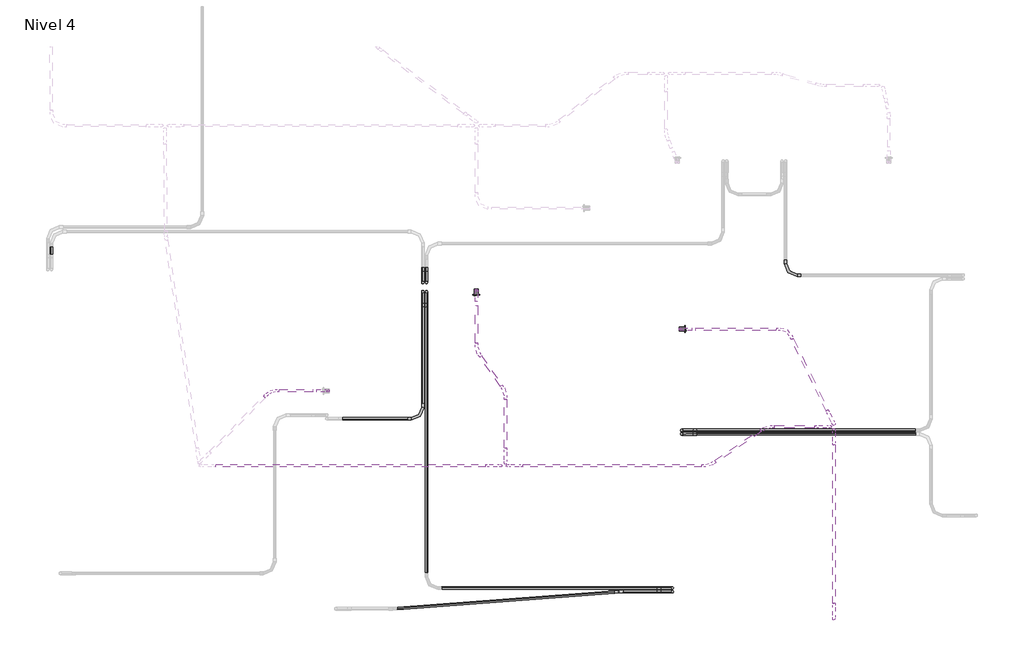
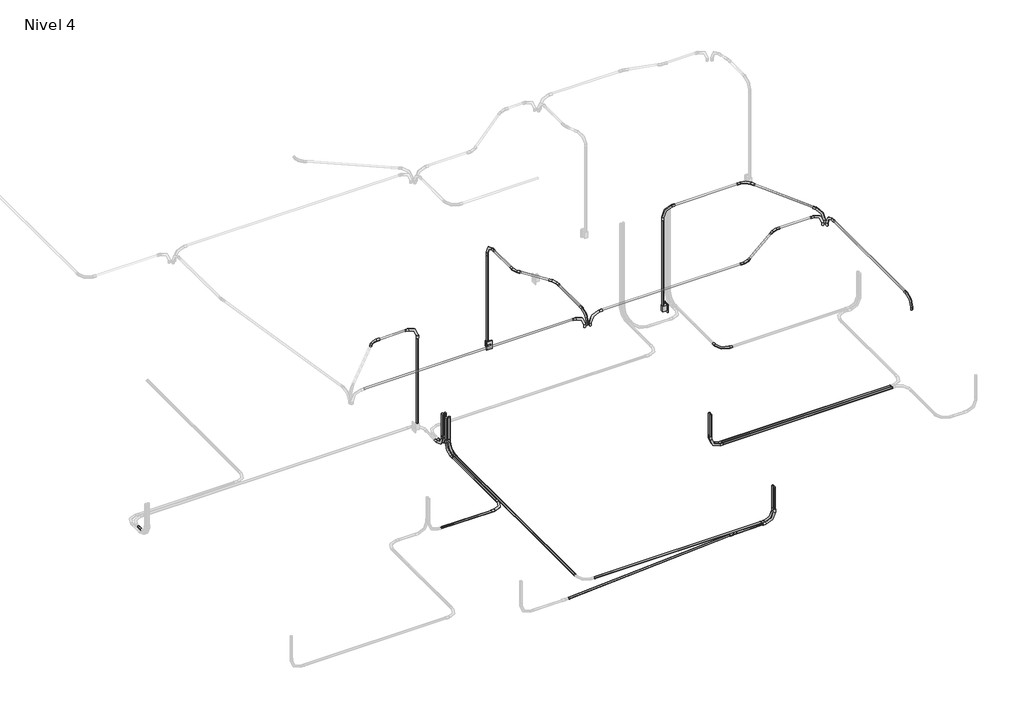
# One storey, part 2 of 9: 31 cable carrier segments, 27 cable carrier fittings, 2 switching devices.
"""IFC4 building model written with IfcOpenShell, lengths in millimetres."""

from ifc_helpers import new_model, si_unit, point, frame, frame_2d, origin, place, context, project, spatial, circle_curve, trimmed, segment, composite_curve, outline, extrude, transform, mapped, element, save
from components import m_codo_de_tubo_extremo_liso_pvc_9da73e12, m_codo_de_tubo_extremo_liso_pvc_e945fc89, m_codo_de_tubo_extremo_liso_pvc_102f0f41, m_codo_de_tubo_extremo_liso_pvc_6d9fa8a7, m_codo_de_tubo_extremo_liso_pvc_f58f4af8, m_codo_de_tubo_extremo_liso_pvc_1309d5ab, m_codo_de_tubo_extremo_liso_pvc_280a536f, m_codo_de_tubo_extremo_liso_pvc_f7d6bdcc, switching_device_22fed34b

model = new_model("IFC4")

# Units and contexts
model_context = context("Model", 3, world=origin())
ifc_project = project(units=[si_unit("LENGTHUNIT", "METRE", prefix="MILLI")], contexts=[model_context])

# Site, building, storey
site = spatial("IfcSite", under=ifc_project)
building = spatial("IfcBuilding", under=site)
storey = spatial("IfcBuildingStorey", under=building, Name="Nivel 4", Elevation=8100.0)

# Cable carrier fittings
placement = place(None, origin())
m_codo_de_tubo_extremo_liso_pvc_shape = m_codo_de_tubo_extremo_liso_pvc_9da73e12(model_context)
element("IfcCableCarrierFitting", 1, ObjectType="M_Codo de tubo - Extremo liso - PVC : CODO POTENCIA", at=placement, inside=storey, context=model_context, shape_type="MappedRepresentation", body=[
    mapped(m_codo_de_tubo_extremo_liso_pvc_shape, transform((6305.3628882, 2344.5282763, 8030.0), x_axis=(0.0, 0.0, -1.0), y_axis=(1.0, 0.0, 0.0), z_axis=(0.0, -1.0, 0.0))),
])
element("IfcCableCarrierFitting", 2, ObjectType="M_Codo de tubo - Extremo liso - PVC : CODO POTENCIA", at=placement, inside=storey, context=model_context, shape_type="MappedRepresentation", body=[
    mapped(m_codo_de_tubo_extremo_liso_pvc_shape, transform((6305.3628882, 2380.5919159, 8030.0), x_axis=(0.0, 0.0, -1.0), y_axis=(1.0, 0.0, 0.0), z_axis=(0.0, -1.0, 0.0))),
])
element("IfcCableCarrierFitting", 3, ObjectType="M_Codo de tubo - Extremo liso - PVC : CODO POTENCIA", at=placement, inside=storey, context=model_context, shape_type="MappedRepresentation", body=[
    mapped(m_codo_de_tubo_extremo_liso_pvc_shape, transform((7343.1290455, 3929.8436623, 8030.0), x_axis=(0.0, -1.0, 0.0), y_axis=(1.0, 0.0, 0.0), z_axis=(0.0, 0.0, 1.0))),
])
element("IfcCableCarrierFitting", 4, ObjectType="M_Codo de tubo - Extremo liso - PVC : CODO POTENCIA", at=placement, inside=storey, context=model_context, shape_type="MappedRepresentation", body=[
    mapped(m_codo_de_tubo_extremo_liso_pvc_shape, transform((3759.3670122, 3855.3628882, 8030.0), x_axis=(0.0, 0.0, -1.0), y_axis=(0.0, 1.0, 0.0), z_axis=(1.0, 0.0, 0.0))),
])
element("IfcCableCarrierFitting", 5, ObjectType="M_Codo de tubo - Extremo liso - PVC : CODO POTENCIA", at=placement, inside=storey, context=model_context, shape_type="MappedRepresentation", body=[
    mapped(m_codo_de_tubo_extremo_liso_pvc_shape, transform((3723.3033726, 3855.3628882, 8030.0), x_axis=(0.0, 0.0, -1.0), y_axis=(0.0, 1.0, 0.0), z_axis=(1.0, 0.0, 0.0))),
])
element("IfcCableCarrierFitting", 6, ObjectType="M_Codo de tubo - Extremo liso - PVC : CODO POTENCIA", at=placement, inside=storey, context=model_context, shape_type="MappedRepresentation", body=[
    mapped(m_codo_de_tubo_extremo_liso_pvc_shape, transform((3759.7333421, 3764.6371118, 8030.0), x_axis=(0.0, 0.0, -1.0), y_axis=(0.0, -1.0, 0.0), z_axis=(-1.0, 0.0, 0.0))),
])
element("IfcCableCarrierFitting", 7, ObjectType="M_Codo de tubo - Extremo liso - PVC : CODO POTENCIA", at=placement, inside=storey, context=model_context, shape_type="MappedRepresentation", body=[
    mapped(m_codo_de_tubo_extremo_liso_pvc_shape, transform((3723.6697024, 3764.6371118, 8030.0), x_axis=(0.0, 0.0, -1.0), y_axis=(0.0, -1.0, 0.0), z_axis=(-1.0, 0.0, 0.0))),
])
element("IfcCableCarrierFitting", 8, ObjectType="M_Codo de tubo - Extremo liso - PVC : CODO POTENCIA", at=placement, inside=storey, context=model_context, shape_type="MappedRepresentation", body=[
    mapped(m_codo_de_tubo_extremo_liso_pvc_shape, transform((6214.6371118, 769.0018593, 8030.0), x_axis=(0.0, 0.0, -1.0), y_axis=(-1.0, 0.0, 0.0), z_axis=(0.0, 1.0, 0.0))),
])
element("IfcCableCarrierFitting", 9, ObjectType="M_Codo de tubo - Extremo liso - PVC : CODO POTENCIA", at=placement, inside=storey, context=model_context, shape_type="MappedRepresentation", body=[
    mapped(m_codo_de_tubo_extremo_liso_pvc_shape, transform((6214.6371118, 805.065499, 8030.0), x_axis=(0.0, 0.0, -1.0), y_axis=(-1.0, 0.0, 0.0), z_axis=(0.0, 1.0, 0.0))),
])
element("IfcCableCarrierFitting", 10, ObjectType="M_Codo de tubo - Extremo liso - PVC : CODO POTENCIA", at=placement, inside=storey, context=model_context, shape_type="MappedRepresentation", body=[
    mapped(m_codo_de_tubo_extremo_liso_pvc_shape, transform((3723.6697024, 2496.1320383, 8030.0), x_axis=(1.0, 0.0, 0.0), y_axis=(0.0, 1.0, 0.0), z_axis=(0.0, 0.0, 1.0))),
])
m_codo_de_tubo_extremo_liso_pvc_2_shape = m_codo_de_tubo_extremo_liso_pvc_e945fc89(model_context)
element("IfcCableCarrierFitting", 11, ObjectType="M_Codo de tubo - Extremo liso - PVC : CODO POTENCIA", at=placement, inside=storey, context=model_context, shape_type="MappedRepresentation", body=[
    mapped(m_codo_de_tubo_extremo_liso_pvc_2_shape, transform((5679.6371118, 769.0018593, 8030.0), x_axis=(-1.0, 0.0, 0.0), y_axis=(0.0, -1.0, 0.0), z_axis=(0.0, 0.0, 1.0))),
])
element("IfcCableCarrierFitting", 12, ObjectType="M_Codo de tubo - Extremo liso - PVC : CODO ILUMINACION", at=placement, inside=storey, context=model_context, shape_type="MappedRepresentation", body=[
    mapped(m_codo_de_tubo_extremo_liso_pvc_shape, transform((4568.8526659, 2026.1291573, 10650.0), x_axis=(-1.0, 0.0, 0.0), y_axis=(0.0, 0.0, -1.0), z_axis=(0.0, -1.0, 0.0))),
])
element("IfcCableCarrierFitting", 13, ObjectType="M_Codo de tubo - Extremo liso - PVC : CODO ILUMINACION", at=placement, inside=storey, context=model_context, shape_type="MappedRepresentation", body=[
    mapped(m_codo_de_tubo_extremo_liso_pvc_shape, transform((7824.8834206, 2385.5078358, 10650.0), x_axis=(0.0, 1.0, 0.0), y_axis=(0.0, 0.0, -1.0), z_axis=(-1.0, 0.0, 0.0))),
])
element("IfcCableCarrierFitting", 14, ObjectType="M_Codo de tubo - Extremo liso - PVC : CODO ILUMINACION", at=placement, inside=storey, context=model_context, shape_type="MappedRepresentation", body=[
    mapped(m_codo_de_tubo_extremo_liso_pvc_shape, transform((7824.7093209, 2441.4349493, 10650.0), x_axis=(0.4383711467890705, -0.8987940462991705, 0.0), y_axis=(0.0, 0.0, -1.0000000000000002), z_axis=(0.8987940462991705, 0.4383711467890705, 0.0))),
])
element("IfcCableCarrierFitting", 15, ObjectType="M_Codo de tubo - Extremo liso - PVC : CODO ILUMINACION", at=placement, inside=storey, context=model_context, shape_type="MappedRepresentation", body=[
    mapped(m_codo_de_tubo_extremo_liso_pvc_shape, transform((7824.8834206, 498.0975256, 10650.0), x_axis=(0.0, -1.0, 0.0), y_axis=(0.0, 0.0, -1.0), z_axis=(1.0, 0.0, 0.0))),
])
element("IfcCableCarrierFitting", 16, ObjectType="M_Codo de tubo - Extremo liso - PVC : CODO ILUMINACION", at=placement, inside=storey, context=model_context, shape_type="MappedRepresentation", body=[
    mapped(m_codo_de_tubo_extremo_liso_pvc_shape, transform((6291.8611243, 3390.4963891, 10650.0), x_axis=(0.0, 0.0, 1.0), y_axis=(1.0, 0.0, 0.0), z_axis=(0.0, 1.0, 0.0))),
])
element("IfcCableCarrierFitting", 17, ObjectType="M_Codo de tubo - Extremo liso - PVC : CODO ILUMINACION", at=placement, inside=storey, context=model_context, shape_type="MappedRepresentation", body=[
    mapped(m_codo_de_tubo_extremo_liso_pvc_shape, transform((2778.1388757, 2774.1263967, 10650.0), x_axis=(0.0, 0.0, 1.0), y_axis=(-1.0, 0.0, 0.0), z_axis=(0.0, -1.0, 0.0))),
])
element("IfcCableCarrierFitting", 18, ObjectType="M_Codo de tubo - Extremo liso - PVC : CODO ILUMINACION", at=placement, inside=storey, context=model_context, shape_type="MappedRepresentation", body=[
    mapped(m_codo_de_tubo_extremo_liso_pvc_shape, transform((4547.4329765, 2051.7188091, 10650.0), x_axis=(-0.0017355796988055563, -0.9999984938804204, 0.0), y_axis=(0.0, 0.0, -1.0), z_axis=(0.9999984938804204, -0.0017355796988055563, 0.0))),
])
element("IfcCableCarrierFitting", 19, ObjectType="M_Codo de tubo - Extremo liso - PVC : CODO ILUMINACION", at=placement, inside=storey, context=model_context, shape_type="MappedRepresentation", body=[
    mapped(m_codo_de_tubo_extremo_liso_pvc_shape, transform((4257.4665435, 3778.1388757, 10650.0), x_axis=(0.0, 0.0, 1.0), y_axis=(0.0, -1.0, 0.0), z_axis=(1.0, 0.0, 0.0))),
])
m_codo_de_tubo_extremo_liso_pvc_3_shape = m_codo_de_tubo_extremo_liso_pvc_102f0f41(model_context)
element("IfcCableCarrierFitting", 20, ObjectType="M_Codo de tubo - Extremo liso - PVC : CODO ILUMINACION", at=placement, inside=storey, context=model_context, shape_type="MappedRepresentation", body=[
    mapped(m_codo_de_tubo_extremo_liso_pvc_3_shape, transform((7788.6622212, 2417.3168974, 10650.0), x_axis=(1.0, 0.0, 0.0), y_axis=(0.0, 0.0, 1.0), z_axis=(0.0, -1.0, 0.0))),
])
element("IfcCableCarrierFitting", 21, ObjectType="M_Codo de tubo - Extremo liso - PVC : CODO ILUMINACION", at=placement, inside=storey, context=model_context, shape_type="MappedRepresentation", body=[
    mapped(m_codo_de_tubo_extremo_liso_pvc_3_shape, transform((4500.822405, 2026.1291573, 10650.0), x_axis=(1.0, 0.0, 0.0), y_axis=(0.0, 0.0, 1.0), z_axis=(0.0, -1.0, 0.0))),
])
m_codo_de_tubo_extremo_liso_pvc_4_shape = m_codo_de_tubo_extremo_liso_pvc_6d9fa8a7(model_context)
element("IfcCableCarrierFitting", 22, ObjectType="M_Codo de tubo - Extremo liso - PVC : CODO ILUMINACION", at=placement, inside=storey, context=model_context, shape_type="MappedRepresentation", body=[
    mapped(m_codo_de_tubo_extremo_liso_pvc_4_shape, transform((6581.2526659, 2026.1291573, 10650.0), x_axis=(1.0, 0.0, 0.0), y_axis=(0.0, 1.0, 0.0), z_axis=(0.0, 0.0, 1.0))),
])
element("IfcCableCarrierFitting", 23, ObjectType="M_Codo de tubo - Extremo liso - PVC : CODO ILUMINACION", at=placement, inside=storey, context=model_context, shape_type="MappedRepresentation", body=[
    mapped(m_codo_de_tubo_extremo_liso_pvc_4_shape, transform((7156.2622212, 2417.3168974, 10650.0), x_axis=(-1.0, 0.0, 0.0), y_axis=(0.0, -1.0, 0.0), z_axis=(0.0, 0.0, 1.0))),
])
m_codo_de_tubo_extremo_liso_pvc_5_shape = m_codo_de_tubo_extremo_liso_pvc_f58f4af8(model_context)
element("IfcCableCarrierFitting", 24, ObjectType="M_Codo de tubo - Extremo liso - PVC : CODO ILUMINACION", at=placement, inside=storey, context=model_context, shape_type="MappedRepresentation", body=[
    mapped(m_codo_de_tubo_extremo_liso_pvc_5_shape, transform((7361.8211281, 3390.4963891, 10650.0), x_axis=(-0.4383711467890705, 0.8987940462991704, 0.0), y_axis=(-0.8987940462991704, -0.4383711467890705, 0.0), z_axis=(0.0, 0.0, 1.0))),
])
m_codo_de_tubo_extremo_liso_pvc_6_shape = m_codo_de_tubo_extremo_liso_pvc_1309d5ab(model_context)
element("IfcCableCarrierFitting", 25, ObjectType="M_Codo de tubo - Extremo liso - PVC : CODO ILUMINACION", at=placement, inside=storey, context=model_context, shape_type="MappedRepresentation", body=[
    mapped(m_codo_de_tubo_extremo_liso_pvc_6_shape, transform((2203.0130764, 2774.1263967, 10650.0), x_axis=(-1.0, 0.0, 0.0), y_axis=(0.0, -1.0, 0.0), z_axis=(0.0, 0.0, 1.0))),
])
m_codo_de_tubo_extremo_liso_pvc_7_shape = m_codo_de_tubo_extremo_liso_pvc_280a536f(model_context)
element("IfcCableCarrierFitting", 26, ObjectType="M_Codo de tubo - Extremo liso - PVC : CODO ILUMINACION", at=placement, inside=storey, context=model_context, shape_type="MappedRepresentation", body=[
    mapped(m_codo_de_tubo_extremo_liso_pvc_7_shape, transform((4257.4665435, 3178.1388757, 10650.0), x_axis=(0.0, -1.0, 0.0), y_axis=(1.0, 0.0, 0.0), z_axis=(0.0, 0.0, 1.0))),
])
m_codo_de_tubo_extremo_liso_pvc_8_shape = m_codo_de_tubo_extremo_liso_pvc_f7d6bdcc(model_context)
element("IfcCableCarrierFitting", 27, ObjectType="M_Codo de tubo - Extremo liso - PVC : CODO ILUMINACION", at=placement, inside=storey, context=model_context, shape_type="MappedRepresentation", body=[
    mapped(m_codo_de_tubo_extremo_liso_pvc_8_shape, transform((4548.6694035, 2764.1177362, 10650.0), x_axis=(0.0017355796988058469, 0.9999984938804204, 0.0), y_axis=(-0.9999984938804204, 0.0017355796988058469, 0.0), z_axis=(0.0, 0.0, 1.0))),
])

# Cable carrier segments
element("IfcCableCarrierSegment", 28, ObjectType="PVC-SEL, POTENCIA", at=placement, inside=storey, context=model_context, shape_type="SweptSolid", body=[
    extrude(outline(composite_curve([segment(trimmed(circle_curve(frame_2d((2344.5282763, 8030.0)), 11.71), [point((2332.8182763, 8030.0))], [point((2344.5282763, 8041.71))], False, "CARTESIAN"), True, "CONTINUOUS"), segment(trimmed(circle_curve(frame_2d((2344.5282763, 8030.0)), 11.71), [point((2344.5282763, 8041.71))], [point((2356.2382763, 8030.0))], False, "CARTESIAN"), True, "CONTINUOUS"), segment(trimmed(circle_curve(frame_2d((2344.5282763, 8030.0)), 11.71), [point((2356.2382763, 8030.0))], [point((2344.5282763, 8018.29))], False, "CARTESIAN"), True, "CONTINUOUS"), segment(trimmed(circle_curve(frame_2d((2344.5282763, 8030.0)), 11.71), [point((2344.5282763, 8018.29))], [point((2332.8182763, 8030.0))], False, "CARTESIAN"), True, "CONTINUOUS")], self_intersect=False)), frame((6457.7628882, 0.0, 0.0), z_axis=(1.0, 0.0, 0.0), x_axis=(0.0, 1.0, 0.0)), (0.0, 0.0, 1.0), 2184.4742236),
])
element("IfcCableCarrierSegment", 29, ObjectType="PVC-SEL, POTENCIA", at=placement, inside=storey, context=model_context, shape_type="SweptSolid", body=[
    extrude(outline(composite_curve([segment(trimmed(circle_curve(frame_2d((6305.3628882, 2344.5282763)), 11.71), [point((6317.0728882, 2344.5282763))], [point((6305.3628882, 2332.8182763))], False, "CARTESIAN"), True, "CONTINUOUS"), segment(trimmed(circle_curve(frame_2d((6305.3628882, 2344.5282763)), 11.71), [point((6305.3628882, 2332.8182763))], [point((6293.6528882, 2344.5282763))], False, "CARTESIAN"), True, "CONTINUOUS"), segment(trimmed(circle_curve(frame_2d((6305.3628882, 2344.5282763)), 11.71), [point((6293.6528882, 2344.5282763))], [point((6305.3628882, 2356.2382763))], False, "CARTESIAN"), True, "CONTINUOUS"), segment(trimmed(circle_curve(frame_2d((6305.3628882, 2344.5282763)), 11.71), [point((6305.3628882, 2356.2382763))], [point((6317.0728882, 2344.5282763))], False, "CARTESIAN"), True, "CONTINUOUS")], self_intersect=False)), frame((0.0, 0.0, 8182.4), z_axis=(0.0, 0.0, 1.0), x_axis=(1.0, 0.0, 0.0)), (0.0, 0.0, 1.0), 297.3020537),
])
element("IfcCableCarrierSegment", 30, ObjectType="PVC-SEL, POTENCIA", at=placement, inside=storey, context=model_context, shape_type="SweptSolid", body=[
    extrude(outline(composite_curve([segment(trimmed(circle_curve(frame_2d((2380.5919159, 8030.0)), 11.71), [point((2392.3019159, 8030.0))], [point((2380.5919159, 8018.29))], False, "CARTESIAN"), True, "CONTINUOUS"), segment(trimmed(circle_curve(frame_2d((2380.5919159, 8030.0)), 11.71), [point((2380.5919159, 8018.29))], [point((2368.8819159, 8030.0))], False, "CARTESIAN"), True, "CONTINUOUS"), segment(trimmed(circle_curve(frame_2d((2380.5919159, 8030.0)), 11.71), [point((2368.8819159, 8030.0))], [point((2380.5919159, 8041.71))], False, "CARTESIAN"), True, "CONTINUOUS"), segment(trimmed(circle_curve(frame_2d((2380.5919159, 8030.0)), 11.71), [point((2380.5919159, 8041.71))], [point((2392.3019159, 8030.0))], False, "CARTESIAN"), True, "CONTINUOUS")], self_intersect=False)), frame((6457.7628882, 0.0, 0.0), z_axis=(1.0, 0.0, 0.0), x_axis=(0.0, 1.0, 0.0)), (0.0, 0.0, 1.0), 2184.4742236),
])
element("IfcCableCarrierSegment", 31, ObjectType="PVC-SEL, POTENCIA", at=placement, inside=storey, context=model_context, shape_type="SweptSolid", body=[
    extrude(outline(composite_curve([segment(trimmed(circle_curve(frame_2d((6305.3628882, 2380.5919159)), 11.71), [point((6317.0728882, 2380.5919159))], [point((6305.3628882, 2368.8819159))], False, "CARTESIAN"), True, "CONTINUOUS"), segment(trimmed(circle_curve(frame_2d((6305.3628882, 2380.5919159)), 11.71), [point((6305.3628882, 2368.8819159))], [point((6293.6528882, 2380.5919159))], False, "CARTESIAN"), True, "CONTINUOUS"), segment(trimmed(circle_curve(frame_2d((6305.3628882, 2380.5919159)), 11.71), [point((6293.6528882, 2380.5919159))], [point((6305.3628882, 2392.3019159))], False, "CARTESIAN"), True, "CONTINUOUS"), segment(trimmed(circle_curve(frame_2d((6305.3628882, 2380.5919159)), 11.71), [point((6305.3628882, 2392.3019159))], [point((6317.0728882, 2380.5919159))], False, "CARTESIAN"), True, "CONTINUOUS")], self_intersect=False)), frame((0.0, 0.0, 8182.4), z_axis=(0.0, 0.0, 1.0), x_axis=(1.0, 0.0, 0.0)), (0.0, 0.0, 1.0), 297.3020537),
])
element("IfcCableCarrierSegment", 32, ObjectType="PVC-SEL, POTENCIA", at=placement, inside=storey, context=model_context, shape_type="SweptSolid", body=[
    extrude(outline(composite_curve([segment(trimmed(circle_curve(frame_2d((8030.0, 17.0761068)), 11.71), [point((8030.0, 28.7861068))], [point((8041.71, 17.0761068))], False, "CARTESIAN"), True, "CONTINUOUS"), segment(trimmed(circle_curve(frame_2d((8030.0, 17.0761068)), 11.71), [point((8041.71, 17.0761068))], [point((8030.0, 5.3661068))], False, "CARTESIAN"), True, "CONTINUOUS"), segment(trimmed(circle_curve(frame_2d((8030.0, 17.0761068)), 11.71), [point((8030.0, 5.3661068))], [point((8018.29, 17.0761068))], False, "CARTESIAN"), True, "CONTINUOUS"), segment(trimmed(circle_curve(frame_2d((8030.0, 17.0761068)), 11.71), [point((8018.29, 17.0761068))], [point((8030.0, 28.7861068))], False, "CARTESIAN"), True, "CONTINUOUS")], self_intersect=False)), frame((0.0, 4137.7628882, 0.0), z_axis=(0.0, 1.0, 0.0), x_axis=(0.0, 0.0, 1.0)), (0.0, 0.0, 1.0), 75.2),
])
element("IfcCableCarrierSegment", 33, ObjectType="PVC-SEL, POTENCIA", at=placement, inside=storey, context=model_context, shape_type="SweptSolid", body=[
    extrude(outline(composite_curve([segment(trimmed(circle_curve(frame_2d((3759.3670122, 3855.3628882)), 11.71), [point((3771.0770122, 3855.3628882))], [point((3759.3670122, 3843.6528882))], False, "CARTESIAN"), True, "CONTINUOUS"), segment(trimmed(circle_curve(frame_2d((3759.3670122, 3855.3628882)), 11.71), [point((3759.3670122, 3843.6528882))], [point((3747.6570122, 3855.3628882))], False, "CARTESIAN"), True, "CONTINUOUS"), segment(trimmed(circle_curve(frame_2d((3759.3670122, 3855.3628882)), 11.71), [point((3747.6570122, 3855.3628882))], [point((3759.3670122, 3867.0728882))], False, "CARTESIAN"), True, "CONTINUOUS"), segment(trimmed(circle_curve(frame_2d((3759.3670122, 3855.3628882)), 11.71), [point((3759.3670122, 3867.0728882))], [point((3771.0770122, 3855.3628882))], False, "CARTESIAN"), True, "CONTINUOUS")], self_intersect=False)), frame((0.0, 0.0, 8182.4), z_axis=(0.0, 0.0, 1.0), x_axis=(1.0, 0.0, 0.0)), (0.0, 0.0, 1.0), 297.3020537),
])
element("IfcCableCarrierSegment", 34, ObjectType="PVC-SEL, POTENCIA", at=placement, inside=storey, context=model_context, shape_type="SweptSolid", body=[
    extrude(outline(composite_curve([segment(trimmed(circle_curve(frame_2d((3723.3033726, 3855.3628882)), 11.71), [point((3735.0133726, 3855.3628882))], [point((3723.3033726, 3843.6528882))], False, "CARTESIAN"), True, "CONTINUOUS"), segment(trimmed(circle_curve(frame_2d((3723.3033726, 3855.3628882)), 11.71), [point((3723.3033726, 3843.6528882))], [point((3711.5933726, 3855.3628882))], False, "CARTESIAN"), True, "CONTINUOUS"), segment(trimmed(circle_curve(frame_2d((3723.3033726, 3855.3628882)), 11.71), [point((3711.5933726, 3855.3628882))], [point((3723.3033726, 3867.0728882))], False, "CARTESIAN"), True, "CONTINUOUS"), segment(trimmed(circle_curve(frame_2d((3723.3033726, 3855.3628882)), 11.71), [point((3723.3033726, 3867.0728882))], [point((3735.0133726, 3855.3628882))], False, "CARTESIAN"), True, "CONTINUOUS")], self_intersect=False)), frame((0.0, 0.0, 8182.4), z_axis=(0.0, 0.0, 1.0), x_axis=(1.0, 0.0, 0.0)), (0.0, 0.0, 1.0), 297.3020537),
])
element("IfcCableCarrierSegment", 35, ObjectType="PVC-SEL, POTENCIA", at=placement, inside=storey, context=model_context, shape_type="SweptSolid", body=[
    extrude(outline(composite_curve([segment(trimmed(circle_curve(frame_2d((8030.0, 3759.7333421)), 11.71), [point((8030.0, 3748.0233421))], [point((8018.29, 3759.7333421))], False, "CARTESIAN"), True, "CONTINUOUS"), segment(trimmed(circle_curve(frame_2d((8030.0, 3759.7333421)), 11.71), [point((8018.29, 3759.7333421))], [point((8030.0, 3771.4433421))], False, "CARTESIAN"), True, "CONTINUOUS"), segment(trimmed(circle_curve(frame_2d((8030.0, 3759.7333421)), 11.71), [point((8030.0, 3771.4433421))], [point((8041.71, 3759.7333421))], False, "CARTESIAN"), True, "CONTINUOUS"), segment(trimmed(circle_curve(frame_2d((8030.0, 3759.7333421)), 11.71), [point((8041.71, 3759.7333421))], [point((8030.0, 3748.0233421))], False, "CARTESIAN"), True, "CONTINUOUS")], self_intersect=False)), frame((0.0, 957.465499, 0.0), z_axis=(0.0, 1.0, 0.0), x_axis=(0.0, 0.0, 1.0)), (0.0, 0.0, 1.0), 2654.7716128),
])
element("IfcCableCarrierSegment", 36, ObjectType="PVC-SEL, POTENCIA", at=placement, inside=storey, context=model_context, shape_type="SweptSolid", body=[
    extrude(outline(composite_curve([segment(trimmed(circle_curve(frame_2d((3759.7333421, 3764.6371118)), 11.71), [point((3771.4433421, 3764.6371118))], [point((3759.7333421, 3752.9271118))], False, "CARTESIAN"), True, "CONTINUOUS"), segment(trimmed(circle_curve(frame_2d((3759.7333421, 3764.6371118)), 11.71), [point((3759.7333421, 3752.9271118))], [point((3748.0233421, 3764.6371118))], False, "CARTESIAN"), True, "CONTINUOUS"), segment(trimmed(circle_curve(frame_2d((3759.7333421, 3764.6371118)), 11.71), [point((3748.0233421, 3764.6371118))], [point((3759.7333421, 3776.3471118))], False, "CARTESIAN"), True, "CONTINUOUS"), segment(trimmed(circle_curve(frame_2d((3759.7333421, 3764.6371118)), 11.71), [point((3759.7333421, 3776.3471118))], [point((3771.4433421, 3764.6371118))], False, "CARTESIAN"), True, "CONTINUOUS")], self_intersect=False)), frame((0.0, 0.0, 8182.4), z_axis=(0.0, 0.0, 1.0), x_axis=(1.0, 0.0, 0.0)), (0.0, 0.0, 1.0), 297.3020537),
])
element("IfcCableCarrierSegment", 37, ObjectType="PVC-SEL, POTENCIA", at=placement, inside=storey, context=model_context, shape_type="SweptSolid", body=[
    extrude(outline(composite_curve([segment(trimmed(circle_curve(frame_2d((8030.0, 3723.6697024)), 11.71), [point((8030.0, 3711.9597024))], [point((8018.29, 3723.6697024))], False, "CARTESIAN"), True, "CONTINUOUS"), segment(trimmed(circle_curve(frame_2d((8030.0, 3723.6697024)), 11.71), [point((8018.29, 3723.6697024))], [point((8030.0, 3735.3797024))], False, "CARTESIAN"), True, "CONTINUOUS"), segment(trimmed(circle_curve(frame_2d((8030.0, 3723.6697024)), 11.71), [point((8030.0, 3735.3797024))], [point((8041.71, 3723.6697024))], False, "CARTESIAN"), True, "CONTINUOUS"), segment(trimmed(circle_curve(frame_2d((8030.0, 3723.6697024)), 11.71), [point((8041.71, 3723.6697024))], [point((8030.0, 3711.9597024))], False, "CARTESIAN"), True, "CONTINUOUS")], self_intersect=False)), frame((0.0, 2648.5320383, 0.0), z_axis=(0.0, 1.0, 0.0), x_axis=(0.0, 0.0, 1.0)), (0.0, 0.0, 1.0), 963.7050735),
])
element("IfcCableCarrierSegment", 38, ObjectType="PVC-SEL, POTENCIA", at=placement, inside=storey, context=model_context, shape_type="SweptSolid", body=[
    extrude(outline(composite_curve([segment(trimmed(circle_curve(frame_2d((3723.6697024, 3764.6371118)), 11.71), [point((3735.3797024, 3764.6371118))], [point((3723.6697024, 3752.9271118))], False, "CARTESIAN"), True, "CONTINUOUS"), segment(trimmed(circle_curve(frame_2d((3723.6697024, 3764.6371118)), 11.71), [point((3723.6697024, 3752.9271118))], [point((3711.9597024, 3764.6371118))], False, "CARTESIAN"), True, "CONTINUOUS"), segment(trimmed(circle_curve(frame_2d((3723.6697024, 3764.6371118)), 11.71), [point((3711.9597024, 3764.6371118))], [point((3723.6697024, 3776.3471118))], False, "CARTESIAN"), True, "CONTINUOUS"), segment(trimmed(circle_curve(frame_2d((3723.6697024, 3764.6371118)), 11.71), [point((3723.6697024, 3776.3471118))], [point((3735.3797024, 3764.6371118))], False, "CARTESIAN"), True, "CONTINUOUS")], self_intersect=False)), frame((0.0, 0.0, 8182.4), z_axis=(0.0, 0.0, 1.0), x_axis=(1.0, 0.0, 0.0)), (0.0, 0.0, 1.0), 297.3020537),
])
element("IfcCableCarrierSegment", 39, ObjectType="PVC-SEL, POTENCIA", at=placement, inside=storey, context=model_context, shape_type="SweptSolid", body=[
    extrude(outline(composite_curve([segment(trimmed(circle_curve(frame_2d((769.0018593, 8030.0)), 11.71), [point((780.7118593, 8030.0))], [point((769.0018593, 8018.29))], False, "CARTESIAN"), True, "CONTINUOUS"), segment(trimmed(circle_curve(frame_2d((769.0018593, 8030.0)), 11.71), [point((769.0018593, 8018.29))], [point((757.2918593, 8030.0))], False, "CARTESIAN"), True, "CONTINUOUS"), segment(trimmed(circle_curve(frame_2d((769.0018593, 8030.0)), 11.71), [point((757.2918593, 8030.0))], [point((769.0018593, 8041.71))], False, "CARTESIAN"), True, "CONTINUOUS"), segment(trimmed(circle_curve(frame_2d((769.0018593, 8030.0)), 11.71), [point((769.0018593, 8041.71))], [point((780.7118593, 8030.0))], False, "CARTESIAN"), True, "CONTINUOUS")], self_intersect=False)), frame((5722.0516109, 0.0, 0.0), z_axis=(1.0, 0.0, 0.0), x_axis=(0.0, 1.0, 0.0)), (0.0, 0.0, 1.0), 340.1855008),
])
element("IfcCableCarrierSegment", 40, ObjectType="PVC-SEL, POTENCIA", at=placement, inside=storey, context=model_context, shape_type="SweptSolid", body=[
    extrude(outline(composite_curve([segment(trimmed(circle_curve(frame_2d((6214.6371118, 769.0018593)), 11.71), [point((6226.3471118, 769.0018593))], [point((6214.6371118, 757.2918593))], False, "CARTESIAN"), True, "CONTINUOUS"), segment(trimmed(circle_curve(frame_2d((6214.6371118, 769.0018593)), 11.71), [point((6214.6371118, 757.2918593))], [point((6202.9271118, 769.0018593))], False, "CARTESIAN"), True, "CONTINUOUS"), segment(trimmed(circle_curve(frame_2d((6214.6371118, 769.0018593)), 11.71), [point((6202.9271118, 769.0018593))], [point((6214.6371118, 780.7118593))], False, "CARTESIAN"), True, "CONTINUOUS"), segment(trimmed(circle_curve(frame_2d((6214.6371118, 769.0018593)), 11.71), [point((6214.6371118, 780.7118593))], [point((6226.3471118, 769.0018593))], False, "CARTESIAN"), True, "CONTINUOUS")], self_intersect=False)), frame((0.0, 0.0, 8182.4), z_axis=(0.0, 0.0, 1.0), x_axis=(1.0, 0.0, 0.0)), (0.0, 0.0, 1.0), 297.3020537),
])
element("IfcCableCarrierSegment", 41, ObjectType="PVC-SEL, POTENCIA", at=placement, inside=storey, context=model_context, shape_type="SweptSolid", body=[
    extrude(outline(composite_curve([segment(trimmed(circle_curve(frame_2d((805.065499, 8030.0)), 11.71), [point((793.355499, 8030.0))], [point((805.065499, 8041.71))], False, "CARTESIAN"), True, "CONTINUOUS"), segment(trimmed(circle_curve(frame_2d((805.065499, 8030.0)), 11.71), [point((805.065499, 8041.71))], [point((816.775499, 8030.0))], False, "CARTESIAN"), True, "CONTINUOUS"), segment(trimmed(circle_curve(frame_2d((805.065499, 8030.0)), 11.71), [point((816.775499, 8030.0))], [point((805.065499, 8018.29))], False, "CARTESIAN"), True, "CONTINUOUS"), segment(trimmed(circle_curve(frame_2d((805.065499, 8030.0)), 11.71), [point((805.065499, 8018.29))], [point((793.355499, 8030.0))], False, "CARTESIAN"), True, "CONTINUOUS")], self_intersect=False)), frame((3912.1333421, 0.0, 0.0), z_axis=(1.0, 0.0, 0.0), x_axis=(0.0, 1.0, 0.0)), (0.0, 0.0, 1.0), 2150.1037697),
])
element("IfcCableCarrierSegment", 42, ObjectType="PVC-SEL, POTENCIA", at=placement, inside=storey, context=model_context, shape_type="SweptSolid", body=[
    extrude(outline(composite_curve([segment(trimmed(circle_curve(frame_2d((6214.6371118, 805.065499)), 11.71), [point((6226.3471118, 805.065499))], [point((6214.6371118, 793.355499))], False, "CARTESIAN"), True, "CONTINUOUS"), segment(trimmed(circle_curve(frame_2d((6214.6371118, 805.065499)), 11.71), [point((6214.6371118, 793.355499))], [point((6202.9271118, 805.065499))], False, "CARTESIAN"), True, "CONTINUOUS"), segment(trimmed(circle_curve(frame_2d((6214.6371118, 805.065499)), 11.71), [point((6202.9271118, 805.065499))], [point((6214.6371118, 816.775499))], False, "CARTESIAN"), True, "CONTINUOUS"), segment(trimmed(circle_curve(frame_2d((6214.6371118, 805.065499)), 11.71), [point((6214.6371118, 816.775499))], [point((6226.3471118, 805.065499))], False, "CARTESIAN"), True, "CONTINUOUS")], self_intersect=False)), frame((0.0, 0.0, 8182.4), z_axis=(0.0, 0.0, 1.0), x_axis=(1.0, 0.0, 0.0)), (0.0, 0.0, 1.0), 297.3020537),
])
element("IfcCableCarrierSegment", 43, ObjectType="PVC-SEL, POTENCIA", at=placement, inside=storey, context=model_context, shape_type="SweptSolid", body=[
    extrude(outline(composite_curve([segment(trimmed(circle_curve(frame_2d((2496.1320383, 8030.0)), 11.71), [point((2507.8420383, 8030.0))], [point((2496.1320383, 8018.29))], False, "CARTESIAN"), True, "CONTINUOUS"), segment(trimmed(circle_curve(frame_2d((2496.1320383, 8030.0)), 11.71), [point((2496.1320383, 8018.29))], [point((2484.4220383, 8030.0))], False, "CARTESIAN"), True, "CONTINUOUS"), segment(trimmed(circle_curve(frame_2d((2496.1320383, 8030.0)), 11.71), [point((2484.4220383, 8030.0))], [point((2496.1320383, 8041.71))], False, "CARTESIAN"), True, "CONTINUOUS"), segment(trimmed(circle_curve(frame_2d((2496.1320383, 8030.0)), 11.71), [point((2496.1320383, 8041.71))], [point((2507.8420383, 8030.0))], False, "CARTESIAN"), True, "CONTINUOUS")], self_intersect=False)), frame((2917.0371118, 0.0, 0.0), z_axis=(1.0, 0.0, 0.0), x_axis=(0.0, 1.0, 0.0)), (0.0, 0.0, 1.0), 654.2325906),
])
element("IfcCableCarrierSegment", 44, ObjectType="PVC-SEL, POTENCIA", at=placement, inside=storey, context=model_context, shape_type="SweptSolid", body=[
    extrude(outline(composite_curve([segment(trimmed(circle_curve(frame_2d((0.0, -11.71)), 11.71), [point((-11.71, -11.71))], [point((0.0, 0.0))], False, "CARTESIAN"), True, "CONTINUOUS"), segment(trimmed(circle_curve(frame_2d((0.0, -11.71)), 11.71), [point((0.0, 0.0))], [point((11.7099999, -11.71))], False, "CARTESIAN"), True, "CONTINUOUS"), segment(trimmed(circle_curve(frame_2d((0.0, -11.71)), 11.71), [point((11.7099999, -11.71))], [point((0.0, -23.42))], False, "CARTESIAN"), True, "CONTINUOUS"), segment(trimmed(circle_curve(frame_2d((0.0, -11.71)), 11.71), [point((0.0, -23.42))], [point((-11.71, -11.71))], False, "CARTESIAN"), True, "CONTINUOUS")], self_intersect=False)), frame((3467.656691, 601.7716714, 8018.29), z_axis=(0.9971543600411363, 0.07538688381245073, 0.0), x_axis=(0.07538688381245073, -0.9971543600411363, 0.0)), (0.0, 0.0, 1.0), 2175.8783845),
])
element("IfcCableCarrierSegment", 45, ObjectType="PVC-SEL ILUMINACION", at=placement, inside=storey, context=model_context, shape_type="SweptSolid", body=[
    extrude(outline(composite_curve([segment(trimmed(circle_curve(frame_2d((2026.1291573, 10650.0)), 11.71), [point((2014.4191573, 10650.0))], [point((2026.1291573, 10661.71))], False, "CARTESIAN"), True, "CONTINUOUS"), segment(trimmed(circle_curve(frame_2d((2026.1291573, 10650.0)), 11.71), [point((2026.1291573, 10661.71))], [point((2037.8391573, 10650.0))], False, "CARTESIAN"), True, "CONTINUOUS"), segment(trimmed(circle_curve(frame_2d((2026.1291573, 10650.0)), 11.71), [point((2037.8391573, 10650.0))], [point((2026.1291573, 10638.29))], False, "CARTESIAN"), True, "CONTINUOUS"), segment(trimmed(circle_curve(frame_2d((2026.1291573, 10650.0)), 11.71), [point((2026.1291573, 10638.29))], [point((2014.4191573, 10650.0))], False, "CARTESIAN"), True, "CONTINUOUS")], self_intersect=False)), frame((4721.2526659, 0.0, 0.0), z_axis=(1.0, 0.0, 0.0), x_axis=(0.0, 1.0, 0.0)), (0.0, 0.0, 1.0), 1786.7061001),
])
element("IfcCableCarrierSegment", 46, ObjectType="PVC-SEL ILUMINACION", at=placement, inside=storey, context=model_context, shape_type="SweptSolid", body=[
    extrude(outline(composite_curve([segment(trimmed(circle_curve(frame_2d((2417.3168974, 10650.0)), 11.71), [point((2429.0268974, 10650.0))], [point((2417.3168974, 10638.29))], False, "CARTESIAN"), True, "CONTINUOUS"), segment(trimmed(circle_curve(frame_2d((2417.3168974, 10650.0)), 11.71), [point((2417.3168974, 10638.29))], [point((2405.6068974, 10650.0))], False, "CARTESIAN"), True, "CONTINUOUS"), segment(trimmed(circle_curve(frame_2d((2417.3168974, 10650.0)), 11.71), [point((2405.6068974, 10650.0))], [point((2417.3168974, 10661.71))], False, "CARTESIAN"), True, "CONTINUOUS"), segment(trimmed(circle_curve(frame_2d((2417.3168974, 10650.0)), 11.71), [point((2417.3168974, 10661.71))], [point((2429.0268974, 10650.0))], False, "CARTESIAN"), True, "CONTINUOUS")], self_intersect=False)), frame((7229.5561211, 0.0, 0.0), z_axis=(1.0, 0.0, 0.0), x_axis=(0.0, 1.0, 0.0)), (0.0, 0.0, 1.0), 406.7061001),
])
element("IfcCableCarrierSegment", 47, ObjectType="PVC-SEL ILUMINACION", at=placement, inside=storey, context=model_context, shape_type="SweptSolid", body=[
    extrude(outline(composite_curve([segment(trimmed(circle_curve(frame_2d((0.0, 11.71)), 11.71), [point((11.71, 11.71))], [point((0.0, 0.0))], False, "CARTESIAN"), True, "CONTINUOUS"), segment(trimmed(circle_curve(frame_2d((0.0, 11.71)), 11.71), [point((0.0, 0.0))], [point((-11.71, 11.71))], False, "CARTESIAN"), True, "CONTINUOUS"), segment(trimmed(circle_curve(frame_2d((0.0, 11.71)), 11.71), [point((-11.71, 11.71))], [point((0.0, 23.42))], False, "CARTESIAN"), True, "CONTINUOUS"), segment(trimmed(circle_curve(frame_2d((0.0, 11.71)), 11.71), [point((0.0, 23.42))], [point((11.71, 11.71))], False, "CARTESIAN"), True, "CONTINUOUS")], self_intersect=False)), frame((6641.852451, 2067.3561121, 10661.71), z_axis=(0.8268053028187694, 0.5624882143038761, 0.0), x_axis=(0.5624882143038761, -0.8268053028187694, 0.0)), (0.0, 0.0, 1.0), 548.8716432),
])
element("IfcCableCarrierSegment", 48, ObjectType="PVC-SEL ILUMINACION", at=placement, inside=storey, context=model_context, shape_type="SweptSolid", body=[
    extrude(outline(composite_curve([segment(trimmed(circle_curve(frame_2d((10650.0, 7824.8834206)), 11.71), [point((10650.0, 7836.5934206))], [point((10661.71, 7824.8834206))], False, "CARTESIAN"), True, "CONTINUOUS"), segment(trimmed(circle_curve(frame_2d((10650.0, 7824.8834206)), 11.71), [point((10661.71, 7824.8834206))], [point((10650.0, 7813.1734206))], False, "CARTESIAN"), True, "CONTINUOUS"), segment(trimmed(circle_curve(frame_2d((10650.0, 7824.8834206)), 11.71), [point((10650.0, 7813.1734206))], [point((10638.29, 7824.8834206))], False, "CARTESIAN"), True, "CONTINUOUS"), segment(trimmed(circle_curve(frame_2d((10650.0, 7824.8834206)), 11.71), [point((10638.29, 7824.8834206))], [point((10650.0, 7836.5934206))], False, "CARTESIAN"), True, "CONTINUOUS")], self_intersect=False)), frame((0.0, 650.4975256, 0.0), z_axis=(0.0, 1.0, 0.0), x_axis=(0.0, 0.0, 1.0)), (0.0, 0.0, 1.0), 1582.6103102),
])
element("IfcCableCarrierSegment", 49, ObjectType="PVC-SEL ILUMINACION", at=placement, inside=storey, context=model_context, shape_type="SweptSolid", body=[
    extrude(outline(composite_curve([segment(trimmed(circle_curve(frame_2d((3390.4963891, 10650.0)), 11.71), [point((3378.7863891, 10650.0))], [point((3390.4963891, 10661.71))], False, "CARTESIAN"), True, "CONTINUOUS"), segment(trimmed(circle_curve(frame_2d((3390.4963891, 10650.0)), 11.71), [point((3390.4963891, 10661.71))], [point((3402.2063891, 10650.0))], False, "CARTESIAN"), True, "CONTINUOUS"), segment(trimmed(circle_curve(frame_2d((3390.4963891, 10650.0)), 11.71), [point((3402.2063891, 10650.0))], [point((3390.4963891, 10638.29))], False, "CARTESIAN"), True, "CONTINUOUS"), segment(trimmed(circle_curve(frame_2d((3390.4963891, 10650.0)), 11.71), [point((3390.4963891, 10638.29))], [point((3378.7863891, 10650.0))], False, "CARTESIAN"), True, "CONTINUOUS")], self_intersect=False)), frame((6444.2611243, 0.0, 0.0), z_axis=(1.0, 0.0, 0.0), x_axis=(0.0, 1.0, 0.0)), (0.0, 0.0, 1.0), 808.0374368),
])
element("IfcCableCarrierSegment", 50, ObjectType="PVC-SEL ILUMINACION", at=placement, inside=storey, context=model_context, shape_type="SweptSolid", body=[
    extrude(outline(composite_curve([segment(trimmed(circle_curve(frame_2d((6291.8611243, 3390.4963891)), 11.71), [point((6280.1511243, 3390.4963891))], [point((6291.8611243, 3402.2063891))], False, "CARTESIAN"), True, "CONTINUOUS"), segment(trimmed(circle_curve(frame_2d((6291.8611243, 3390.4963891)), 11.71), [point((6291.8611243, 3402.2063891))], [point((6303.5711243, 3390.4963891))], False, "CARTESIAN"), True, "CONTINUOUS"), segment(trimmed(circle_curve(frame_2d((6291.8611243, 3390.4963891)), 11.71), [point((6303.5711243, 3390.4963891))], [point((6291.8611243, 3378.7863891))], False, "CARTESIAN"), True, "CONTINUOUS"), segment(trimmed(circle_curve(frame_2d((6291.8611243, 3390.4963891)), 11.71), [point((6291.8611243, 3378.7863891))], [point((6280.1511243, 3390.4963891))], False, "CARTESIAN"), True, "CONTINUOUS")], self_intersect=False)), frame((0.0, 0.0, 9340.2227463), z_axis=(0.0, 0.0, 1.0), x_axis=(1.0, 0.0, 0.0)), (0.0, 0.0, 1.0), 1157.3772537),
])
element("IfcCableCarrierSegment", 51, ObjectType="PVC-SEL ILUMINACION", at=placement, inside=storey, context=model_context, shape_type="SweptSolid", body=[
    extrude(outline(composite_curve([segment(trimmed(circle_curve(frame_2d((0.0, -11.71)), 11.71), [point((-11.71, -11.71))], [point((0.0, 0.0))], False, "CARTESIAN"), True, "CONTINUOUS"), segment(trimmed(circle_curve(frame_2d((0.0, -11.71)), 11.71), [point((0.0, 0.0))], [point((11.71, -11.71))], False, "CARTESIAN"), True, "CONTINUOUS"), segment(trimmed(circle_curve(frame_2d((0.0, -11.71)), 11.71), [point((11.71, -11.71))], [point((0.0, -23.42))], False, "CARTESIAN"), True, "CONTINUOUS"), segment(trimmed(circle_curve(frame_2d((0.0, -11.71)), 11.71), [point((0.0, -23.42))], [point((-11.71, -11.71))], False, "CARTESIAN"), True, "CONTINUOUS")], self_intersect=False)), frame((7757.9015581, 2578.4111619, 10638.29), z_axis=(-0.43837114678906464, 0.8987940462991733, 0.0), x_axis=(0.8987940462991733, 0.43837114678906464, 0.0)), (0.0, 0.0, 1.0), 794.0050327),
])
element("IfcCableCarrierSegment", 52, ObjectType="PVC-SEL ILUMINACION", at=placement, inside=storey, context=model_context, shape_type="SweptSolid", body=[
    extrude(outline(composite_curve([segment(trimmed(circle_curve(frame_2d((2026.1291573, 10650.0)), 11.71), [point((2037.8391573, 10650.0))], [point((2026.1291573, 10638.29))], False, "CARTESIAN"), True, "CONTINUOUS"), segment(trimmed(circle_curve(frame_2d((2026.1291573, 10650.0)), 11.71), [point((2026.1291573, 10638.29))], [point((2014.4191573, 10650.0))], False, "CARTESIAN"), True, "CONTINUOUS"), segment(trimmed(circle_curve(frame_2d((2026.1291573, 10650.0)), 11.71), [point((2014.4191573, 10650.0))], [point((2026.1291573, 10661.71))], False, "CARTESIAN"), True, "CONTINUOUS"), segment(trimmed(circle_curve(frame_2d((2026.1291573, 10650.0)), 11.71), [point((2026.1291573, 10661.71))], [point((2037.8391573, 10650.0))], False, "CARTESIAN"), True, "CONTINUOUS")], self_intersect=False)), frame((1656.9487012, 0.0, 0.0), z_axis=(1.0, 0.0, 0.0), x_axis=(0.0, 1.0, 0.0)), (0.0, 0.0, 1.0), 2691.4737038),
])
element("IfcCableCarrierSegment", 53, ObjectType="PVC-SEL ILUMINACION", at=placement, inside=storey, context=model_context, shape_type="SweptSolid", body=[
    extrude(outline(composite_curve([segment(trimmed(circle_curve(frame_2d((2774.1263967, 10650.0)), 11.71), [point((2762.4163967, 10650.0))], [point((2774.1263967, 10661.71))], False, "CARTESIAN"), True, "CONTINUOUS"), segment(trimmed(circle_curve(frame_2d((2774.1263967, 10650.0)), 11.71), [point((2774.1263967, 10661.71))], [point((2785.8363967, 10650.0))], False, "CARTESIAN"), True, "CONTINUOUS"), segment(trimmed(circle_curve(frame_2d((2774.1263967, 10650.0)), 11.71), [point((2785.8363967, 10650.0))], [point((2774.1263967, 10638.29))], False, "CARTESIAN"), True, "CONTINUOUS"), segment(trimmed(circle_curve(frame_2d((2774.1263967, 10650.0)), 11.71), [point((2774.1263967, 10638.29))], [point((2762.4163967, 10650.0))], False, "CARTESIAN"), True, "CONTINUOUS")], self_intersect=False)), frame((2288.9199561, 0.0, 0.0), z_axis=(1.0, 0.0, 0.0), x_axis=(0.0, 1.0, 0.0)), (0.0, 0.0, 1.0), 336.8189196),
])
element("IfcCableCarrierSegment", 54, ObjectType="PVC-SEL ILUMINACION", at=placement, inside=storey, context=model_context, shape_type="SweptSolid", body=[
    extrude(outline(composite_curve([segment(trimmed(circle_curve(frame_2d((2778.1388757, 2774.1263967)), 11.71), [point((2766.4288757, 2774.1263967))], [point((2778.1388757, 2785.8363967))], False, "CARTESIAN"), True, "CONTINUOUS"), segment(trimmed(circle_curve(frame_2d((2778.1388757, 2774.1263967)), 11.71), [point((2778.1388757, 2785.8363967))], [point((2789.8488757, 2774.1263967))], False, "CARTESIAN"), True, "CONTINUOUS"), segment(trimmed(circle_curve(frame_2d((2778.1388757, 2774.1263967)), 11.71), [point((2789.8488757, 2774.1263967))], [point((2778.1388757, 2762.4163967))], False, "CARTESIAN"), True, "CONTINUOUS"), segment(trimmed(circle_curve(frame_2d((2778.1388757, 2774.1263967)), 11.71), [point((2778.1388757, 2762.4163967))], [point((2766.4288757, 2774.1263967))], False, "CARTESIAN"), True, "CONTINUOUS")], self_intersect=False)), frame((0.0, 0.0, 9340.2227463), z_axis=(0.0, 0.0, 1.0), x_axis=(1.0, 0.0, 0.0)), (0.0, 0.0, 1.0), 1157.3772537),
])
element("IfcCableCarrierSegment", 55, ObjectType="PVC-SEL ILUMINACION", at=placement, inside=storey, context=model_context, shape_type="SweptSolid", body=[
    extrude(outline(composite_curve([segment(trimmed(circle_curve(frame_2d((0.0, 11.7099999)), 11.71), [point((0.0, 23.42))], [point((11.71, 11.7099999))], False, "CARTESIAN"), True, "CONTINUOUS"), segment(trimmed(circle_curve(frame_2d((0.0, 11.7099999)), 11.71), [point((11.71, 11.7099999))], [point((0.0, 0.0))], False, "CARTESIAN"), True, "CONTINUOUS"), segment(trimmed(circle_curve(frame_2d((0.0, 11.7099999)), 11.71), [point((0.0, 0.0))], [point((-11.71, 11.7099999))], False, "CARTESIAN"), True, "CONTINUOUS"), segment(trimmed(circle_curve(frame_2d((0.0, 11.7099999)), 11.71), [point((-11.71, 11.7099999))], [point((0.0, 23.42))], False, "CARTESIAN"), True, "CONTINUOUS")], self_intersect=False)), frame((4535.9874965, 2204.1389032, 10650.0), z_axis=(0.001735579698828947, 0.9999984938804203, 0.0), x_axis=(0.0, 0.0, 1.0)), (0.0, 0.0, 1.0), 485.6197495),
])
element("IfcCableCarrierSegment", 56, ObjectType="PVC-SEL ILUMINACION", at=placement, inside=storey, context=model_context, shape_type="SweptSolid", body=[
    extrude(outline(composite_curve([segment(trimmed(circle_curve(frame_2d((10650.0, 4257.4665435)), 11.71), [point((10650.0, 4245.7565435))], [point((10638.29, 4257.4665435))], False, "CARTESIAN"), True, "CONTINUOUS"), segment(trimmed(circle_curve(frame_2d((10650.0, 4257.4665435)), 11.71), [point((10638.29, 4257.4665435))], [point((10650.0, 4269.1765435))], False, "CARTESIAN"), True, "CONTINUOUS"), segment(trimmed(circle_curve(frame_2d((10650.0, 4257.4665435)), 11.71), [point((10650.0, 4269.1765435))], [point((10661.71, 4257.4665435))], False, "CARTESIAN"), True, "CONTINUOUS"), segment(trimmed(circle_curve(frame_2d((10650.0, 4257.4665435)), 11.71), [point((10661.71, 4257.4665435))], [point((10650.0, 4245.7565435))], False, "CARTESIAN"), True, "CONTINUOUS")], self_intersect=False)), frame((0.0, 3252.4099745, 0.0), z_axis=(0.0, 1.0, 0.0), x_axis=(0.0, 0.0, 1.0)), (0.0, 0.0, 1.0), 373.3289012),
])
element("IfcCableCarrierSegment", 57, ObjectType="PVC-SEL ILUMINACION", at=placement, inside=storey, context=model_context, shape_type="SweptSolid", body=[
    extrude(outline(composite_curve([segment(trimmed(circle_curve(frame_2d((4257.4665435, 3778.1388757)), 11.71), [point((4245.7565435, 3778.1388757))], [point((4257.4665435, 3789.8488757))], False, "CARTESIAN"), True, "CONTINUOUS"), segment(trimmed(circle_curve(frame_2d((4257.4665435, 3778.1388757)), 11.71), [point((4257.4665435, 3789.8488757))], [point((4269.1765435, 3778.1388757))], False, "CARTESIAN"), True, "CONTINUOUS"), segment(trimmed(circle_curve(frame_2d((4257.4665435, 3778.1388757)), 11.71), [point((4269.1765435, 3778.1388757))], [point((4257.4665435, 3766.4288757))], False, "CARTESIAN"), True, "CONTINUOUS"), segment(trimmed(circle_curve(frame_2d((4257.4665435, 3778.1388757)), 11.71), [point((4257.4665435, 3766.4288757))], [point((4245.7565435, 3778.1388757))], False, "CARTESIAN"), True, "CONTINUOUS")], self_intersect=False)), frame((0.0, 0.0, 9340.2227463), z_axis=(0.0, 0.0, 1.0), x_axis=(1.0, 0.0, 0.0)), (0.0, 0.0, 1.0), 1157.3772537),
])
element("IfcCableCarrierSegment", 58, ObjectType="PVC-SEL ILUMINACION", at=placement, inside=storey, context=model_context, shape_type="SweptSolid", body=[
    extrude(outline(composite_curve([segment(trimmed(circle_curve(frame_2d((0.0, 11.71)), 11.71), [point((11.71, 11.71))], [point((0.0, 0.0))], False, "CARTESIAN"), True, "CONTINUOUS"), segment(trimmed(circle_curve(frame_2d((0.0, 11.71)), 11.71), [point((0.0, 0.0))], [point((-11.7099999, 11.71))], False, "CARTESIAN"), True, "CONTINUOUS"), segment(trimmed(circle_curve(frame_2d((0.0, 11.71)), 11.71), [point((-11.7099999, 11.71))], [point((0.0, 23.42))], False, "CARTESIAN"), True, "CONTINUOUS"), segment(trimmed(circle_curve(frame_2d((0.0, 11.71)), 11.71), [point((0.0, 23.42))], [point((11.71, 11.71))], False, "CARTESIAN"), True, "CONTINUOUS")], self_intersect=False)), frame((4505.8783456, 2824.956433, 10661.71), z_axis=(-0.5753013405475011, 0.8179415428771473, 0.0), x_axis=(0.8179415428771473, 0.5753013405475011, 0.0)), (0.0, 0.0, 1.0), 357.523136),
])

# Switching devices
switching_device_shape = switching_device_22fed34b(model_context)
element("IfcSwitchingDevice", 59, ObjectType="Interruptor : Tridireccional", at=placement, inside=storey, context=model_context, shape_type="MappedRepresentation", body=[
    mapped(switching_device_shape, transform((6335.0, 3390.5462347, 9300.0), x_axis=(0.0, 1.0, 0.0), y_axis=(0.0, 0.0, 1.0), z_axis=(1.0, 0.0, 0.0))),
])
element("IfcSwitchingDevice", 60, ObjectType="Interruptor : Tridireccional", at=placement, inside=storey, context=model_context, shape_type="MappedRepresentation", body=[
    mapped(switching_device_shape, transform((4257.5163892, 3735.0, 9300.0), x_axis=(1.0, 0.0, 0.0), y_axis=(0.0, 0.0, 1.0), z_axis=(0.0, -1.0, 0.0))),
])

save(model, "model.ifc")
